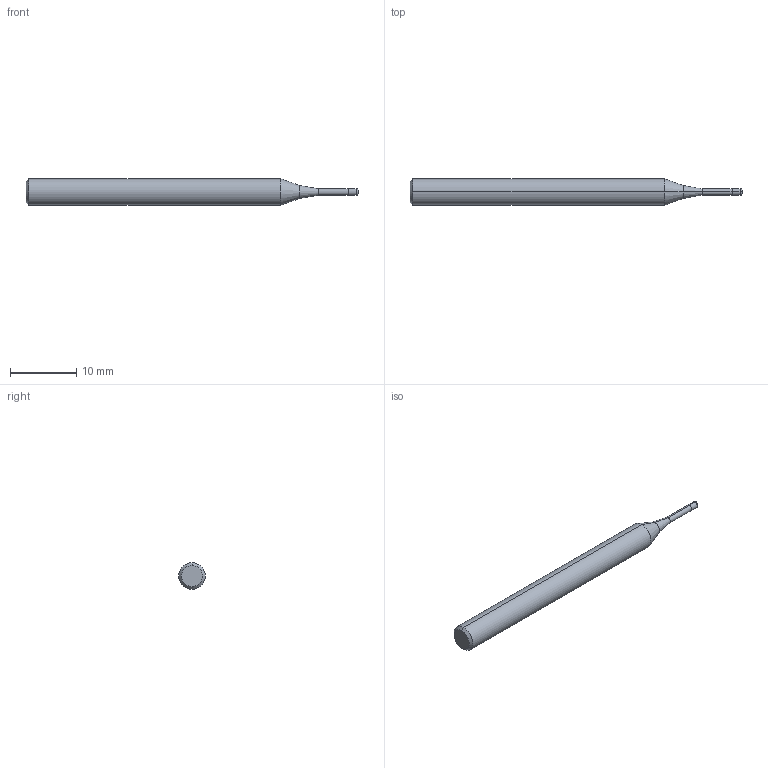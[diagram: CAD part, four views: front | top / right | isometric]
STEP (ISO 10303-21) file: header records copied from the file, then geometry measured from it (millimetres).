
FILE_DESCRIPTION (( 'STEP AP214' ), '1' );
FILE_NAME ('SEME610100306E.STEP', '2018-04-09T09:14:55', ( '' ), ( '' ), 'SwSTEP 2.0', 'SolidWorks 2014', '' );
FILE_SCHEMA (( 'AUTOMOTIVE_DESIGN' ));
Length unit declared in the file: millimetre
Products named in the file (1): SEME610100306E
Bounding box: 50 x 4 x 4 mm (x, y, z)
Volume: 510.3 mm3; surface area: 552.3 mm2
Topology: 2 solids, 2 shells, 18 faces, 32 edges, 18 vertices
Faces by surface type: cylinder 6, cone 6, plane 4, torus 2
Entity records: 479 total; most frequent: DIRECTION 90, CARTESIAN_POINT 69, ORIENTED_EDGE 64, AXIS2_PLACEMENT_3D 39, EDGE_CURVE 32, CIRCLE 20, EDGE_LOOP 18, VERTEX_POINT 18
